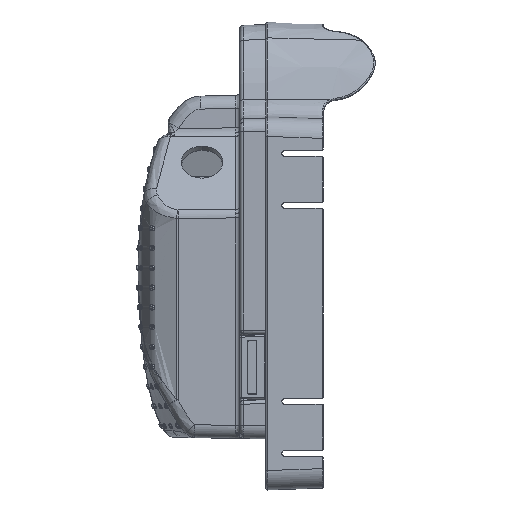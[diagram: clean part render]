
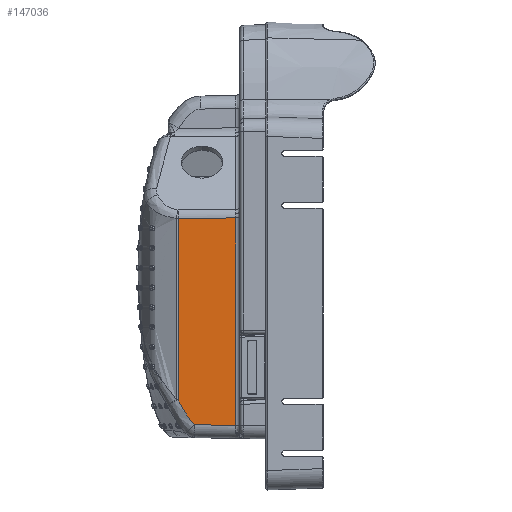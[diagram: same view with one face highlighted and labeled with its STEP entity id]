
A CAD part, left-side view. The second image highlights one B-rep face of the part: STEP entity #147036.
In plain terms, the highlighted planar face has unit normal (-1, 0.018, 0).
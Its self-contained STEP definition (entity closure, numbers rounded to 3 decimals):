
#97041=DIRECTION('',(0.,0.,-1.));
#97042=VECTOR('',#97041,69.818);
#97043=CARTESIAN_POINT('',(-227.781,-83.208,
32.72));
#97044=LINE('',#97043,#97042);
#97048=DIRECTION('',(-0.017,-1.,0.006));
#97049=VECTOR('',#97048,22.216);
#97050=CARTESIAN_POINT('',(-227.781,-83.208,
32.72));
#97051=LINE('',#97050,#97049);
#97055=DIRECTION('',(0.017,1.,0.017));
#97056=VECTOR('',#97055,16.004);
#97057=CARTESIAN_POINT('',(-228.169,-105.42,
-46.937));
#97058=LINE('',#97057,#97056);
#97062=CARTESIAN_POINT('',(-227.889,-89.421,
-46.658));
#97063=CARTESIAN_POINT('',(-227.883,-89.078,
-46.317));
#97064=CARTESIAN_POINT('',(-227.872,-88.437,
-45.603));
#97065=CARTESIAN_POINT('',(-227.852,-87.28,
-44.092));
#97066=CARTESIAN_POINT('',(-227.834,-86.252,
-42.493));
#97067=CARTESIAN_POINT('',(-227.817,-85.286,
-40.852));
#97068=CARTESIAN_POINT('',(-227.805,-84.582,
-39.606));
#97069=CARTESIAN_POINT('',(-227.793,-83.889,
-38.355));
#97070=CARTESIAN_POINT('',(-227.785,-83.434,
-37.517));
#97071=CARTESIAN_POINT('',(-227.781,-83.208,
-37.097));
#97126=DIRECTION('',(0.,0.,1.));
#97127=VECTOR('',#97126,79.798);
#97128=CARTESIAN_POINT('',(-228.169,-105.42,
-46.937));
#97129=LINE('',#97128,#97127);
#97218=CARTESIAN_POINT('',(-228.169,-105.42,
-46.937));
#119667=VERTEX_POINT('',#97218);
#120513=CARTESIAN_POINT('',(-227.781,-83.208,
-37.097));
#120514=VERTEX_POINT('',#120513);
#120515=CARTESIAN_POINT('',(-227.781,-83.208,
32.72));
#120516=VERTEX_POINT('',#120515);
#120517=CARTESIAN_POINT('',(-228.169,-105.42,
32.862));
#120518=VERTEX_POINT('',#120517);
#120519=CARTESIAN_POINT('',(-227.889,-89.421,
-46.658));
#120520=VERTEX_POINT('',#120519);
#147020=CARTESIAN_POINT('',(-228.212,-107.894,
-12.155));
#147021=DIRECTION('',(-1.,0.017,0.));
#147022=DIRECTION('',(-0.017,-1.,0.));
#147023=AXIS2_PLACEMENT_3D('',#147020,#147021,#147022);
#147024=PLANE('',#147023);
#147025=ORIENTED_EDGE('',*,*,#147011,.F.);
#147027=ORIENTED_EDGE('',*,*,#147026,.T.);
#147029=ORIENTED_EDGE('',*,*,#147028,.F.);
#147031=ORIENTED_EDGE('',*,*,#147030,.T.);
#147033=ORIENTED_EDGE('',*,*,#147032,.T.);
#147034=EDGE_LOOP('',(#147025,#147027,#147029,#147031,#147033));
#147035=FACE_OUTER_BOUND('',#147034,.F.);
#147036=ADVANCED_FACE('',(#147035),#147024,.T.);
#97072=B_SPLINE_CURVE_WITH_KNOTS('',3,(#97062,#97063,#97064,#97065,#97066,
#97067,#97068,#97069,#97070,#97071),.UNSPECIFIED.,.F.,.F.,(4,1,1,1,1,1,1,4),(
0.,0.125,0.25,0.5,0.625,
0.75,0.875,1.),.UNSPECIFIED.);
#147011=EDGE_CURVE('',#120516,#120514,#97044,.T.);
#147026=EDGE_CURVE('',#120516,#120518,#97051,.T.);
#147028=EDGE_CURVE('',#119667,#120518,#97129,.T.);
#147030=EDGE_CURVE('',#119667,#120520,#97058,.T.);
#147032=EDGE_CURVE('',#120520,#120514,#97072,.T.);
